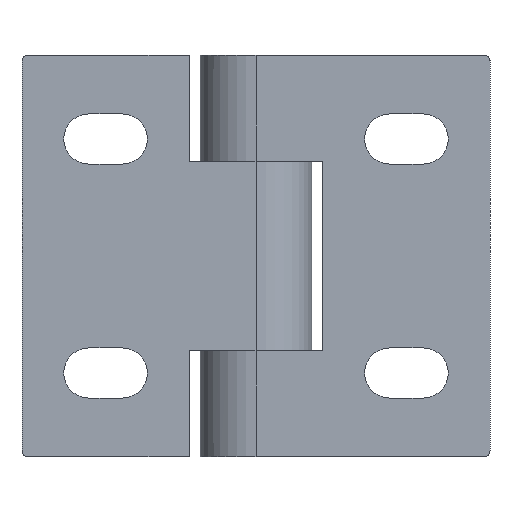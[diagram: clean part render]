
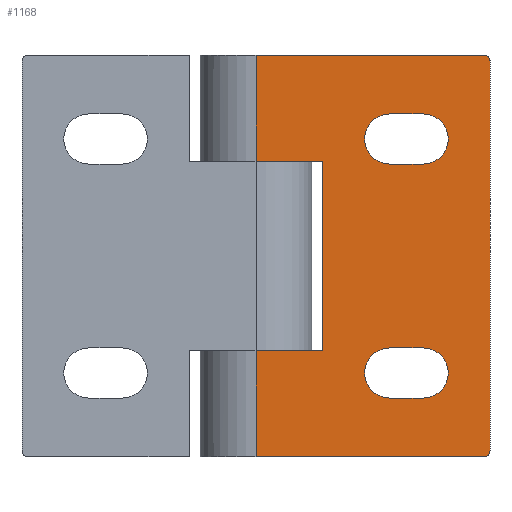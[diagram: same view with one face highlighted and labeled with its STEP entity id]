
A CAD part, front view. The second image highlights one B-rep face of the part: STEP entity #1168.
In plain terms, the highlighted planar face has unit normal (0, -1, 0).
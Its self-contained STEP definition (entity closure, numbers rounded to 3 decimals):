
#7 = LINE ( 'NONE', #526, #1599 ) ;
#11 = DIRECTION ( 'NONE',  ( 0., -1., 0. ) ) ;
#25 = ORIENTED_EDGE ( 'NONE', *, *, #919, .T. ) ;
#63 = CARTESIAN_POINT ( 'NONE',  ( 42., -10., -71. ) ) ;
#76 = VERTEX_POINT ( 'NONE', #63 ) ;
#80 = CARTESIAN_POINT ( 'NONE',  ( 0., -10., -72. ) ) ;
#82 = CARTESIAN_POINT ( 'NONE',  ( 41., -10., -71. ) ) ;
#119 = CARTESIAN_POINT ( 'NONE',  ( 0., -10., -53. ) ) ;
#126 = VERTEX_POINT ( 'NONE', #2185 ) ;
#142 = VECTOR ( 'NONE', #2085, 1000. ) ;
#184 = EDGE_CURVE ( 'NONE', #126, #1621, #1233, .T. ) ;
#190 = CARTESIAN_POINT ( 'NONE',  ( 24., -10., -10.5 ) ) ;
#196 = EDGE_CURVE ( 'NONE', #826, #735, #206, .T. ) ;
#206 = CIRCLE ( 'NONE', #1447, 4.5 ) ;
#219 = VERTEX_POINT ( 'NONE', #605 ) ;
#225 = DIRECTION ( 'NONE',  ( 1., 0., 0. ) ) ;
#229 = EDGE_CURVE ( 'NONE', #285, #76, #464, .T. ) ;
#232 = CARTESIAN_POINT ( 'NONE',  ( 0., -10., -72. ) ) ;
#246 = DIRECTION ( 'NONE',  ( 0., 0., -1. ) ) ;
#272 = EDGE_CURVE ( 'NONE', #790, #1398, #745, .T. ) ;
#285 = VERTEX_POINT ( 'NONE', #1283 ) ;
#320 = ORIENTED_EDGE ( 'NONE', *, *, #1472, .F. ) ;
#322 = ORIENTED_EDGE ( 'NONE', *, *, #1580, .F. ) ;
#331 = ORIENTED_EDGE ( 'NONE', *, *, #1662, .F. ) ;
#386 = EDGE_LOOP ( 'NONE', ( #609, #623, #1405, #322, #985, #1656, #25, #1770, #1428, #1326 ) ) ;
#394 = EDGE_CURVE ( 'NONE', #1530, #1236, #1092, .T. ) ;
#405 = LINE ( 'NONE', #1743, #717 ) ;
#424 = VECTOR ( 'NONE', #1159, 1000. ) ;
#464 = CIRCLE ( 'NONE', #1988, 1. ) ;
#465 = LINE ( 'NONE', #1137, #424 ) ;
#476 = DIRECTION ( 'NONE',  ( 0., 0., 1. ) ) ;
#485 = LINE ( 'NONE', #1691, #2120 ) ;
#506 = EDGE_CURVE ( 'NONE', #2041, #1984, #530, .T. ) ;
#519 = CARTESIAN_POINT ( 'NONE',  ( 30., -10., -61.5 ) ) ;
#526 = CARTESIAN_POINT ( 'NONE',  ( 42., -10., -72. ) ) ;
#529 = AXIS2_PLACEMENT_3D ( 'NONE', #1145, #1487, #476 ) ;
#530 = LINE ( 'NONE', #892, #1911 ) ;
#549 = DIRECTION ( 'NONE',  ( -1., 0., 0. ) ) ;
#550 = EDGE_LOOP ( 'NONE', ( #1019, #1054, #320, #2019 ) ) ;
#555 = DIRECTION ( 'NONE',  ( 1., 0., 0. ) ) ;
#605 = CARTESIAN_POINT ( 'NONE',  ( 12., -10., -19. ) ) ;
#609 = ORIENTED_EDGE ( 'NONE', *, *, #1310, .F. ) ;
#623 = ORIENTED_EDGE ( 'NONE', *, *, #1943, .F. ) ;
#626 = CARTESIAN_POINT ( 'NONE',  ( 0., -10., -19. ) ) ;
#657 = DIRECTION ( 'NONE',  ( 0., -1., 0. ) ) ;
#662 = CARTESIAN_POINT ( 'NONE',  ( 41., -10., 0. ) ) ;
#681 = CARTESIAN_POINT ( 'NONE',  ( 30., -10., -19.5 ) ) ;
#715 = LINE ( 'NONE', #1906, #142 ) ;
#717 = VECTOR ( 'NONE', #225, 1000. ) ;
#735 = VERTEX_POINT ( 'NONE', #2166 ) ;
#737 = CIRCLE ( 'NONE', #1197, 4.5 ) ;
#745 = CIRCLE ( 'NONE', #1730, 1. ) ;
#760 = FACE_OUTER_BOUND ( 'NONE', #386, .T. ) ;
#767 = DIRECTION ( 'NONE',  ( 0., -1., 0. ) ) ;
#780 = DIRECTION ( 'NONE',  ( 0., -1., 0. ) ) ;
#790 = VERTEX_POINT ( 'NONE', #1157 ) ;
#826 = VERTEX_POINT ( 'NONE', #1847 ) ;
#851 = EDGE_LOOP ( 'NONE', ( #331, #1760, #1889, #1871 ) ) ;
#858 = CARTESIAN_POINT ( 'NONE',  ( 0., -10., -72. ) ) ;
#862 = VERTEX_POINT ( 'NONE', #1722 ) ;
#864 = EDGE_CURVE ( 'NONE', #862, #826, #2055, .T. ) ;
#868 = CARTESIAN_POINT ( 'NONE',  ( 12., -10., -19. ) ) ;
#892 = CARTESIAN_POINT ( 'NONE',  ( 12., -10., -53. ) ) ;
#893 = CARTESIAN_POINT ( 'NONE',  ( 24., -10., -52.5 ) ) ;
#919 = EDGE_CURVE ( 'NONE', #76, #790, #7, .T. ) ;
#924 = VERTEX_POINT ( 'NONE', #681 ) ;
#961 = EDGE_CURVE ( 'NONE', #735, #924, #715, .T. ) ;
#985 = ORIENTED_EDGE ( 'NONE', *, *, #1762, .T. ) ;
#1002 = DIRECTION ( 'NONE',  ( 1., 0., 0. ) ) ;
#1016 = CARTESIAN_POINT ( 'NONE',  ( 30., -10., -57. ) ) ;
#1019 = ORIENTED_EDGE ( 'NONE', *, *, #196, .F. ) ;
#1025 = DIRECTION ( 'NONE',  ( 0., 0., 1. ) ) ;
#1054 = ORIENTED_EDGE ( 'NONE', *, *, #864, .F. ) ;
#1092 = LINE ( 'NONE', #232, #2095 ) ;
#1137 = CARTESIAN_POINT ( 'NONE',  ( 12., -10., -19. ) ) ;
#1145 = CARTESIAN_POINT ( 'NONE',  ( 24., -10., -57. ) ) ;
#1157 = CARTESIAN_POINT ( 'NONE',  ( 42., -10., -1. ) ) ;
#1159 = DIRECTION ( 'NONE',  ( -1., 0., 0. ) ) ;
#1163 = VECTOR ( 'NONE', #1946, 1000. ) ;
#1164 = VECTOR ( 'NONE', #1025, 1000. ) ;
#1168 = ADVANCED_FACE ( 'NONE', ( #760, #1772, #2133 ), #1605, .T. ) ;
#1180 = CIRCLE ( 'NONE', #1250, 4.5 ) ;
#1197 = AXIS2_PLACEMENT_3D ( 'NONE', #2160, #657, #1328 ) ;
#1204 = DIRECTION ( 'NONE',  ( 0., 0., 1. ) ) ;
#1206 = VECTOR ( 'NONE', #549, 1000. ) ;
#1233 = LINE ( 'NONE', #2119, #1163 ) ;
#1236 = VERTEX_POINT ( 'NONE', #1979 ) ;
#1250 = AXIS2_PLACEMENT_3D ( 'NONE', #1016, #11, #1696 ) ;
#1283 = CARTESIAN_POINT ( 'NONE',  ( 41., -10., -72. ) ) ;
#1295 = EDGE_CURVE ( 'NONE', #1506, #126, #1484, .T. ) ;
#1310 = EDGE_CURVE ( 'NONE', #219, #1530, #465, .T. ) ;
#1314 = CARTESIAN_POINT ( 'NONE',  ( 30., -10., -52.5 ) ) ;
#1326 = ORIENTED_EDGE ( 'NONE', *, *, #394, .F. ) ;
#1328 = DIRECTION ( 'NONE',  ( 0., 0., 1. ) ) ;
#1354 = EDGE_CURVE ( 'NONE', #1236, #1398, #485, .T. ) ;
#1398 = VERTEX_POINT ( 'NONE', #662 ) ;
#1405 = ORIENTED_EDGE ( 'NONE', *, *, #506, .F. ) ;
#1415 = VERTEX_POINT ( 'NONE', #1314 ) ;
#1423 = DIRECTION ( 'NONE',  ( -1., 0., 0. ) ) ;
#1425 = VECTOR ( 'NONE', #1423, 1000. ) ;
#1428 = ORIENTED_EDGE ( 'NONE', *, *, #1354, .F. ) ;
#1447 = AXIS2_PLACEMENT_3D ( 'NONE', #1619, #2111, #246 ) ;
#1449 = DIRECTION ( 'NONE',  ( 0., 0., -1. ) ) ;
#1453 = DIRECTION ( 'NONE',  ( 0., 0., -1. ) ) ;
#1454 = CARTESIAN_POINT ( 'NONE',  ( 24., -10., -52.5 ) ) ;
#1472 = EDGE_CURVE ( 'NONE', #924, #862, #737, .T. ) ;
#1484 = CIRCLE ( 'NONE', #529, 4.5 ) ;
#1487 = DIRECTION ( 'NONE',  ( 0., -1., 0. ) ) ;
#1506 = VERTEX_POINT ( 'NONE', #1454 ) ;
#1530 = VERTEX_POINT ( 'NONE', #626 ) ;
#1580 = EDGE_CURVE ( 'NONE', #2012, #2041, #2040, .T. ) ;
#1599 = VECTOR ( 'NONE', #1204, 1000. ) ;
#1605 = PLANE ( 'NONE',  #1774 ) ;
#1607 = DIRECTION ( 'NONE',  ( 0., 0., -1. ) ) ;
#1619 = CARTESIAN_POINT ( 'NONE',  ( 24., -10., -15. ) ) ;
#1621 = VERTEX_POINT ( 'NONE', #519 ) ;
#1656 = ORIENTED_EDGE ( 'NONE', *, *, #229, .T. ) ;
#1662 = EDGE_CURVE ( 'NONE', #1621, #1415, #1180, .T. ) ;
#1691 = CARTESIAN_POINT ( 'NONE',  ( 0., -10., 0. ) ) ;
#1696 = DIRECTION ( 'NONE',  ( 0., 0., -1. ) ) ;
#1722 = CARTESIAN_POINT ( 'NONE',  ( 30., -10., -10.5 ) ) ;
#1730 = AXIS2_PLACEMENT_3D ( 'NONE', #2125, #780, #1607 ) ;
#1743 = CARTESIAN_POINT ( 'NONE',  ( 0., -10., -72. ) ) ;
#1760 = ORIENTED_EDGE ( 'NONE', *, *, #184, .F. ) ;
#1762 = EDGE_CURVE ( 'NONE', #2012, #285, #405, .T. ) ;
#1766 = CARTESIAN_POINT ( 'NONE',  ( 12., -10., -53. ) ) ;
#1770 = ORIENTED_EDGE ( 'NONE', *, *, #272, .T. ) ;
#1772 = FACE_BOUND ( 'NONE', #550, .T. ) ;
#1774 = AXIS2_PLACEMENT_3D ( 'NONE', #1952, #767, #1449 ) ;
#1847 = CARTESIAN_POINT ( 'NONE',  ( 24., -10., -10.5 ) ) ;
#1871 = ORIENTED_EDGE ( 'NONE', *, *, #2003, .F. ) ;
#1889 = ORIENTED_EDGE ( 'NONE', *, *, #1295, .F. ) ;
#1906 = CARTESIAN_POINT ( 'NONE',  ( 24., -10., -19.5 ) ) ;
#1910 = LINE ( 'NONE', #893, #1425 ) ;
#1911 = VECTOR ( 'NONE', #555, 1000. ) ;
#1943 = EDGE_CURVE ( 'NONE', #1984, #219, #1945, .T. ) ;
#1945 = LINE ( 'NONE', #868, #2061 ) ;
#1946 = DIRECTION ( 'NONE',  ( 1., 0., 0. ) ) ;
#1952 = CARTESIAN_POINT ( 'NONE',  ( 0., -10., -72. ) ) ;
#1954 = DIRECTION ( 'NONE',  ( 0., 0., 1. ) ) ;
#1979 = CARTESIAN_POINT ( 'NONE',  ( 0., -10., 0. ) ) ;
#1984 = VERTEX_POINT ( 'NONE', #1766 ) ;
#1988 = AXIS2_PLACEMENT_3D ( 'NONE', #82, #2129, #1453 ) ;
#2003 = EDGE_CURVE ( 'NONE', #1415, #1506, #1910, .T. ) ;
#2012 = VERTEX_POINT ( 'NONE', #80 ) ;
#2019 = ORIENTED_EDGE ( 'NONE', *, *, #961, .F. ) ;
#2040 = LINE ( 'NONE', #858, #1164 ) ;
#2041 = VERTEX_POINT ( 'NONE', #119 ) ;
#2055 = LINE ( 'NONE', #190, #1206 ) ;
#2061 = VECTOR ( 'NONE', #2077, 1000. ) ;
#2077 = DIRECTION ( 'NONE',  ( 0., 0., 1. ) ) ;
#2085 = DIRECTION ( 'NONE',  ( 1., 0., 0. ) ) ;
#2095 = VECTOR ( 'NONE', #1954, 1000. ) ;
#2111 = DIRECTION ( 'NONE',  ( 0., -1., 0. ) ) ;
#2119 = CARTESIAN_POINT ( 'NONE',  ( 24., -10., -61.5 ) ) ;
#2120 = VECTOR ( 'NONE', #1002, 1000. ) ;
#2125 = CARTESIAN_POINT ( 'NONE',  ( 41., -10., -1. ) ) ;
#2129 = DIRECTION ( 'NONE',  ( 0., -1., 0. ) ) ;
#2133 = FACE_BOUND ( 'NONE', #851, .T. ) ;
#2160 = CARTESIAN_POINT ( 'NONE',  ( 30., -10., -15. ) ) ;
#2166 = CARTESIAN_POINT ( 'NONE',  ( 24., -10., -19.5 ) ) ;
#2185 = CARTESIAN_POINT ( 'NONE',  ( 24., -10., -61.5 ) ) ;
